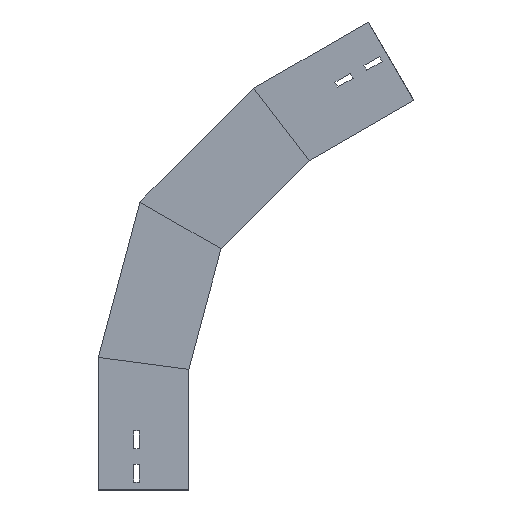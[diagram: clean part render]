
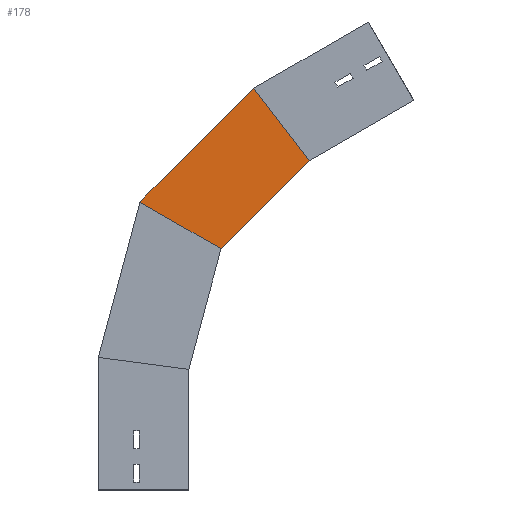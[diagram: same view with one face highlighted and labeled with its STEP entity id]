
A CAD part, left-side view. The second image highlights one B-rep face of the part: STEP entity #178.
In plain terms, the highlighted planar face has unit normal (-1, 0, 0) as drawn and (1, 0, 0) by its records, which use the part's own axes.
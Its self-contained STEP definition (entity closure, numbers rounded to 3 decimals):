
#7 = EDGE_CURVE ( 'NONE', #89, #1518, #491, .T. ) ;
#89 = VERTEX_POINT ( 'NONE', #1322 ) ;
#90 = VECTOR ( 'NONE', #1342, 1000. ) ;
#134 = DIRECTION ( 'NONE',  ( 0., -0.259, 0.966 ) ) ;
#178 = ADVANCED_FACE ( 'NONE', ( #1679 ), #530, .T. ) ;
#230 = VECTOR ( 'NONE', #576, 1000. ) ;
#262 = CARTESIAN_POINT ( 'NONE',  ( 0., -40.117, 299.719 ) ) ;
#293 = CARTESIAN_POINT ( 'NONE',  ( 0., 0., 150. ) ) ;
#313 = ORIENTED_EDGE ( 'NONE', *, *, #1460, .T. ) ;
#348 = EDGE_CURVE ( 'NONE', #681, #1518, #1157, .T. ) ;
#389 = DIRECTION ( 'NONE',  ( 1., 0., 0. ) ) ;
#392 = EDGE_LOOP ( 'NONE', ( #313, #753, #1648, #1225 ) ) ;
#395 = DIRECTION ( 'NONE',  ( 0., -0.259, 0.966 ) ) ;
#491 = LINE ( 'NONE', #828, #230 ) ;
#530 = PLANE ( 'NONE',  #1170 ) ;
#544 = CARTESIAN_POINT ( 'NONE',  ( 0., 4.243, 134.167 ) ) ;
#576 = DIRECTION ( 'NONE',  ( 0., -0.866, -0.5 ) ) ;
#654 = CARTESIAN_POINT ( 'NONE',  ( 0., 4.243, 134.167 ) ) ;
#681 = VERTEX_POINT ( 'NONE', #293 ) ;
#753 = ORIENTED_EDGE ( 'NONE', *, *, #7, .T. ) ;
#799 = VECTOR ( 'NONE', #395, 1000. ) ;
#805 = VERTEX_POINT ( 'NONE', #823 ) ;
#823 = CARTESIAN_POINT ( 'NONE',  ( 0., 112.5, 164.811 ) ) ;
#825 = LINE ( 'NONE', #1075, #90 ) ;
#828 = CARTESIAN_POINT ( 'NONE',  ( 0., -78.533, 277.539 ) ) ;
#851 = VECTOR ( 'NONE', #134, 1000. ) ;
#1075 = CARTESIAN_POINT ( 'NONE',  ( 0., -19.411, 147.444 ) ) ;
#1101 = LINE ( 'NONE', #1574, #851 ) ;
#1157 = LINE ( 'NONE', #544, #799 ) ;
#1170 = AXIS2_PLACEMENT_3D ( 'NONE', #654, #389, #1554 ) ;
#1225 = ORIENTED_EDGE ( 'NONE', *, *, #1581, .F. ) ;
#1322 = CARTESIAN_POINT ( 'NONE',  ( 0., 60.748, 357.953 ) ) ;
#1342 = DIRECTION ( 'NONE',  ( 0., -0.991, -0.131 ) ) ;
#1460 = EDGE_CURVE ( 'NONE', #805, #89, #1101, .T. ) ;
#1518 = VERTEX_POINT ( 'NONE', #262 ) ;
#1554 = DIRECTION ( 'NONE',  ( 0., 0., -1. ) ) ;
#1574 = CARTESIAN_POINT ( 'NONE',  ( 0., 112.909, 163.284 ) ) ;
#1581 = EDGE_CURVE ( 'NONE', #805, #681, #825, .T. ) ;
#1648 = ORIENTED_EDGE ( 'NONE', *, *, #348, .F. ) ;
#1679 = FACE_OUTER_BOUND ( 'NONE', #392, .T. ) ;
